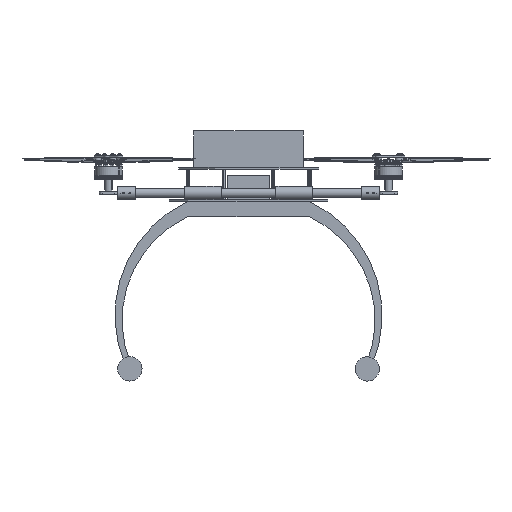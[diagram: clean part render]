
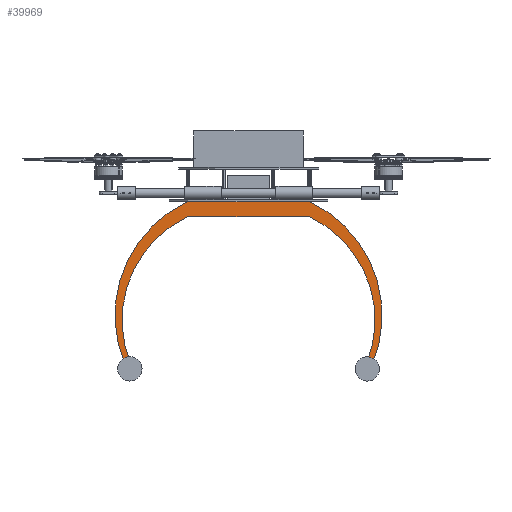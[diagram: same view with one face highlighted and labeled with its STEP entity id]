
A CAD part, front view. The second image highlights one B-rep face of the part: STEP entity #39969.
In plain terms, the highlighted planar face has unit normal (0, -1, 0).
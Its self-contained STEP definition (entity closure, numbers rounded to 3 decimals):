
#47 = CIRCLE ( 'NONE', #34610, 8. ) ;
#263 = ORIENTED_EDGE ( 'NONE', *, *, #16189, .T. ) ;
#636 = DIRECTION ( 'NONE',  ( -1., 0., 0. ) ) ;
#961 = DIRECTION ( 'NONE',  ( 0., -1., 0. ) ) ;
#1184 = VERTEX_POINT ( 'NONE', #3368 ) ;
#1255 = CIRCLE ( 'NONE', #18200, 206.912 ) ;
#1332 = EDGE_LOOP ( 'NONE', ( #9796, #35127 ) ) ;
#2123 = DIRECTION ( 'NONE',  ( 0., 0., 1. ) ) ;
#3368 = CARTESIAN_POINT ( 'NONE',  ( -202.797, 0., -126.238 ) ) ;
#3555 = DIRECTION ( 'NONE',  ( 0., 1., 0. ) ) ;
#3590 = EDGE_CURVE ( 'NONE', #19089, #16237, #32916, .T. ) ;
#3673 = CARTESIAN_POINT ( 'NONE',  ( -195., 0., -132.5 ) ) ;
#3775 = CARTESIAN_POINT ( 'NONE',  ( 12.5, 0., -45. ) ) ;
#3916 = DIRECTION ( 'NONE',  ( 0., 0., 1. ) ) ;
#4383 = CARTESIAN_POINT ( 'NONE',  ( 195., 0., -142.5 ) ) ;
#4490 = LINE ( 'NONE', #42529, #24486 ) ;
#4759 = ORIENTED_EDGE ( 'NONE', *, *, #17661, .T. ) ;
#4995 = DIRECTION ( 'NONE',  ( 0., 0., 1. ) ) ;
#5012 = CARTESIAN_POINT ( 'NONE',  ( 100., 0., 142.5 ) ) ;
#5403 = VERTEX_POINT ( 'NONE', #13695 ) ;
#5453 = DIRECTION ( 'NONE',  ( 0., 1., 0. ) ) ;
#6073 = CARTESIAN_POINT ( 'NONE',  ( 195., 0., -140.5 ) ) ;
#6623 = DIRECTION ( 'NONE',  ( 0., 1., 0. ) ) ;
#6678 = AXIS2_PLACEMENT_3D ( 'NONE', #3673, #6895, #35035 ) ;
#6895 = DIRECTION ( 'NONE',  ( 0., -1., 0. ) ) ;
#7159 = EDGE_CURVE ( 'NONE', #32706, #34584, #8589, .T. ) ;
#7594 = AXIS2_PLACEMENT_3D ( 'NONE', #22357, #12153, #36607 ) ;
#7701 = VERTEX_POINT ( 'NONE', #45159 ) ;
#7829 = CIRCLE ( 'NONE', #36546, 10. ) ;
#7891 = AXIS2_PLACEMENT_3D ( 'NONE', #31414, #961, #3916 ) ;
#8337 = DIRECTION ( 'NONE',  ( 0., 1., 0. ) ) ;
#8589 = CIRCLE ( 'NONE', #14471, 8. ) ;
#9076 = EDGE_CURVE ( 'NONE', #34955, #9913, #11237, .T. ) ;
#9214 = VERTEX_POINT ( 'NONE', #6073 ) ;
#9647 = VERTEX_POINT ( 'NONE', #42733 ) ;
#9796 = ORIENTED_EDGE ( 'NONE', *, *, #16351, .T. ) ;
#9913 = VERTEX_POINT ( 'NONE', #18268 ) ;
#10130 = CARTESIAN_POINT ( 'NONE',  ( 195., 0., -132.5 ) ) ;
#10451 = VERTEX_POINT ( 'NONE', #28619 ) ;
#10498 = CARTESIAN_POINT ( 'NONE',  ( -20., 0., -52.5 ) ) ;
#11087 = FACE_BOUND ( 'NONE', #1332, .T. ) ;
#11237 = CIRCLE ( 'NONE', #42155, 187.883 ) ;
#11368 = DIRECTION ( 'NONE',  ( -1., 0., 0. ) ) ;
#11386 = DIRECTION ( 'NONE',  ( 0., 0., 1. ) ) ;
#11403 = VERTEX_POINT ( 'NONE', #4383 ) ;
#11687 = CARTESIAN_POINT ( 'NONE',  ( 195., 0., -132.5 ) ) ;
#11689 = EDGE_CURVE ( 'NONE', #11403, #16237, #7829, .T. ) ;
#12032 = ORIENTED_EDGE ( 'NONE', *, *, #7159, .T. ) ;
#12153 = DIRECTION ( 'NONE',  ( 0., 1., 0. ) ) ;
#12969 = CARTESIAN_POINT ( 'NONE',  ( -195., 0., -140.5 ) ) ;
#13493 = CIRCLE ( 'NONE', #7594, 187.883 ) ;
#13695 = CARTESIAN_POINT ( 'NONE',  ( -100., 0., 142.5 ) ) ;
#14056 = CARTESIAN_POINT ( 'NONE',  ( -194.347, 0., -122.521 ) ) ;
#14230 = EDGE_LOOP ( 'NONE', ( #12032, #15382 ) ) ;
#14471 = AXIS2_PLACEMENT_3D ( 'NONE', #44841, #19995, #34266 ) ;
#15382 = ORIENTED_EDGE ( 'NONE', *, *, #15480, .T. ) ;
#15480 = EDGE_CURVE ( 'NONE', #34584, #32706, #47, .T. ) ;
#15609 = EDGE_CURVE ( 'NONE', #10451, #9913, #32625, .T. ) ;
#16189 = EDGE_CURVE ( 'NONE', #22201, #34955, #40562, .T. ) ;
#16237 = VERTEX_POINT ( 'NONE', #26042 ) ;
#16351 = EDGE_CURVE ( 'NONE', #7701, #9214, #33147, .T. ) ;
#17014 = DIRECTION ( 'NONE',  ( 0., 0., 1. ) ) ;
#17661 = EDGE_CURVE ( 'NONE', #10451, #9647, #13493, .T. ) ;
#18200 = AXIS2_PLACEMENT_3D ( 'NONE', #37376, #8337, #2123 ) ;
#18268 = CARTESIAN_POINT ( 'NONE',  ( -100., 0., 117.5 ) ) ;
#19038 = CARTESIAN_POINT ( 'NONE',  ( -195., 0., -142.5 ) ) ;
#19089 = VERTEX_POINT ( 'NONE', #5012 ) ;
#19156 = AXIS2_PLACEMENT_3D ( 'NONE', #37973, #6623, #17014 ) ;
#19290 = DIRECTION ( 'NONE',  ( 0., 0., 1. ) ) ;
#19995 = DIRECTION ( 'NONE',  ( 0., 1., 0. ) ) ;
#20553 = AXIS2_PLACEMENT_3D ( 'NONE', #32513, #36615, #4995 ) ;
#20561 = EDGE_LOOP ( 'NONE', ( #31335, #29762, #4759, #22146, #29397, #44346, #32293, #30947, #38363, #263 ) ) ;
#21505 = FACE_BOUND ( 'NONE', #14230, .T. ) ;
#22146 = ORIENTED_EDGE ( 'NONE', *, *, #26650, .T. ) ;
#22201 = VERTEX_POINT ( 'NONE', #19038 ) ;
#22357 = CARTESIAN_POINT ( 'NONE',  ( 20., 0., -52.5 ) ) ;
#24162 = CIRCLE ( 'NONE', #7891, 10. ) ;
#24486 = VECTOR ( 'NONE', #636, 1000. ) ;
#24586 = DIRECTION ( 'NONE',  ( 0., 1., 0. ) ) ;
#25168 = CARTESIAN_POINT ( 'NONE',  ( 0., 0., 0. ) ) ;
#25376 = DIRECTION ( 'NONE',  ( 0., 1., 0. ) ) ;
#25935 = EDGE_CURVE ( 'NONE', #1184, #5403, #1255, .T. ) ;
#26042 = CARTESIAN_POINT ( 'NONE',  ( 202.797, 0., -126.238 ) ) ;
#26650 = EDGE_CURVE ( 'NONE', #9647, #11403, #24162, .T. ) ;
#27089 = EDGE_CURVE ( 'NONE', #9214, #7701, #37434, .T. ) ;
#28619 = CARTESIAN_POINT ( 'NONE',  ( 100., 0., 117.5 ) ) ;
#29397 = ORIENTED_EDGE ( 'NONE', *, *, #11689, .T. ) ;
#29762 = ORIENTED_EDGE ( 'NONE', *, *, #15609, .F. ) ;
#30138 = AXIS2_PLACEMENT_3D ( 'NONE', #11687, #5453, #43946 ) ;
#30140 = DIRECTION ( 'NONE',  ( 0., 1., 0. ) ) ;
#30947 = ORIENTED_EDGE ( 'NONE', *, *, #25935, .F. ) ;
#31335 = ORIENTED_EDGE ( 'NONE', *, *, #9076, .T. ) ;
#31414 = CARTESIAN_POINT ( 'NONE',  ( 195., 0., -132.5 ) ) ;
#32055 = DIRECTION ( 'NONE',  ( 0., 0., 1. ) ) ;
#32293 = ORIENTED_EDGE ( 'NONE', *, *, #37314, .T. ) ;
#32513 = CARTESIAN_POINT ( 'NONE',  ( -195., 0., -132.5 ) ) ;
#32625 = LINE ( 'NONE', #42708, #37551 ) ;
#32706 = VERTEX_POINT ( 'NONE', #43331 ) ;
#32916 = CIRCLE ( 'NONE', #35859, 206.912 ) ;
#33147 = CIRCLE ( 'NONE', #19156, 8. ) ;
#33614 = AXIS2_PLACEMENT_3D ( 'NONE', #25168, #25376, #42414 ) ;
#34031 = CARTESIAN_POINT ( 'NONE',  ( -195., 0., -132.5 ) ) ;
#34266 = DIRECTION ( 'NONE',  ( 0., 0., 1. ) ) ;
#34584 = VERTEX_POINT ( 'NONE', #12969 ) ;
#34610 = AXIS2_PLACEMENT_3D ( 'NONE', #34031, #30140, #19290 ) ;
#34955 = VERTEX_POINT ( 'NONE', #14056 ) ;
#35035 = DIRECTION ( 'NONE',  ( 0., 0., 1. ) ) ;
#35127 = ORIENTED_EDGE ( 'NONE', *, *, #27089, .T. ) ;
#35859 = AXIS2_PLACEMENT_3D ( 'NONE', #3775, #3555, #45499 ) ;
#35998 = CIRCLE ( 'NONE', #20553, 10. ) ;
#36546 = AXIS2_PLACEMENT_3D ( 'NONE', #10130, #38260, #32055 ) ;
#36607 = DIRECTION ( 'NONE',  ( 0., 0., 1. ) ) ;
#36615 = DIRECTION ( 'NONE',  ( 0., -1., 0. ) ) ;
#37314 = EDGE_CURVE ( 'NONE', #19089, #5403, #4490, .T. ) ;
#37376 = CARTESIAN_POINT ( 'NONE',  ( -12.5, 0., -45. ) ) ;
#37434 = CIRCLE ( 'NONE', #30138, 8. ) ;
#37551 = VECTOR ( 'NONE', #11368, 1000. ) ;
#37973 = CARTESIAN_POINT ( 'NONE',  ( 195., 0., -132.5 ) ) ;
#38260 = DIRECTION ( 'NONE',  ( 0., -1., 0. ) ) ;
#38363 = ORIENTED_EDGE ( 'NONE', *, *, #42005, .T. ) ;
#39218 = FACE_OUTER_BOUND ( 'NONE', #20561, .T. ) ;
#39969 = ADVANCED_FACE ( 'NONE', ( #21505, #11087, #39218 ), #42632, .F. ) ;
#40562 = CIRCLE ( 'NONE', #6678, 10. ) ;
#42005 = EDGE_CURVE ( 'NONE', #1184, #22201, #35998, .T. ) ;
#42155 = AXIS2_PLACEMENT_3D ( 'NONE', #10498, #24586, #11386 ) ;
#42414 = DIRECTION ( 'NONE',  ( 0., 0., 1. ) ) ;
#42529 = CARTESIAN_POINT ( 'NONE',  ( 0., 0., 142.5 ) ) ;
#42632 = PLANE ( 'NONE',  #33614 ) ;
#42708 = CARTESIAN_POINT ( 'NONE',  ( 0., 0., 117.5 ) ) ;
#42733 = CARTESIAN_POINT ( 'NONE',  ( 194.347, 0., -122.521 ) ) ;
#43331 = CARTESIAN_POINT ( 'NONE',  ( -195., 0., -124.5 ) ) ;
#43946 = DIRECTION ( 'NONE',  ( 0., 0., 1. ) ) ;
#44346 = ORIENTED_EDGE ( 'NONE', *, *, #3590, .F. ) ;
#44841 = CARTESIAN_POINT ( 'NONE',  ( -195., 0., -132.5 ) ) ;
#45159 = CARTESIAN_POINT ( 'NONE',  ( 195., 0., -124.5 ) ) ;
#45499 = DIRECTION ( 'NONE',  ( 0., 0., 1. ) ) ;
